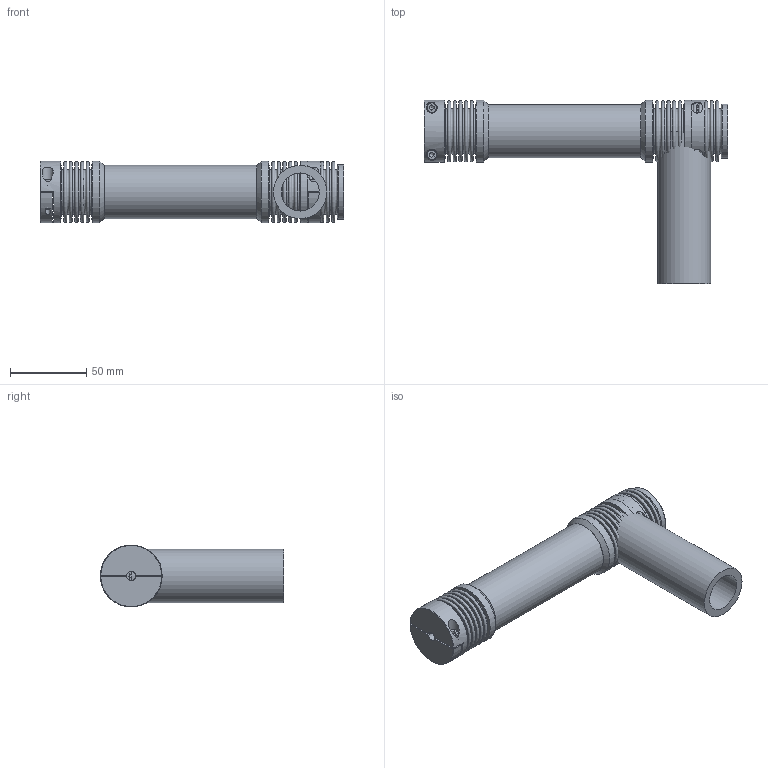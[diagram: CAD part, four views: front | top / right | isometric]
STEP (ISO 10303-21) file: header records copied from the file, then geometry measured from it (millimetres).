
FILE_DESCRIPTION( ( 'Unknown' ), '1' );
FILE_NAME( 'K:/Konstruktion/DRB/DRB10.stp', 'Unknown', ( 'Unknown' ), ( 'Unknown' ), 'XStep 1.0', 'Unknown', ' ' );
FILE_SCHEMA( ( 'automotive_design' ) );
Length unit declared in the file: millimetre
Products named in the file (7): Assem1; KNH-100; BK100_Standard_2; Socket Head Cap Screw_DIN_DIN 912 M4 x 16 --- 16N_3; R35; Aufnahme R35-1
Bounding box: 199.46 x 120.25 x 40.5 mm (x, y, z)
Volume: 176014.8 mm3; surface area: 127657.2 mm2
Topology: 19 solids, 19 shells, 374 faces, 711 edges, 458 vertices
Faces by surface type: plane 199, torus 88, cylinder 65, cone 22
Full cylindrical faces by diameter (mm): 3.242 x6, 4 x5, 4.2 x6, 6 x3, 7 x5, 7.3 x6, 20 x3, 25 x5, 35 x2, 35.2 x6, 35.8 x6, 40.5 x6
Entity records: 3096 total; most frequent: CARTESIAN_POINT 647, DIRECTION 494, ORIENTED_EDGE 298, AXIS2_PLACEMENT_3D 227, EDGE_LOOP 206, FACE_OUTER_BOUND 159, EDGE_CURVE 149, VERTEX_POINT 128
